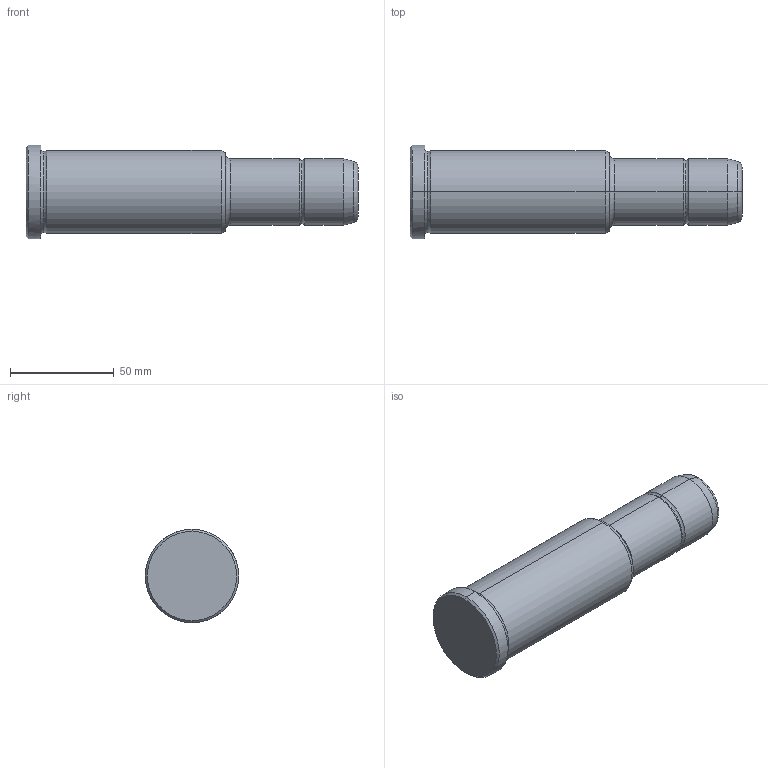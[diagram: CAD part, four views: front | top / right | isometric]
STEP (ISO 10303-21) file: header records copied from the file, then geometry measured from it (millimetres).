
FILE_DESCRIPTION(('CATIA V5 STEP Exchange'),'2;1');
FILE_NAME('C:\Users\Utente\Desktop\IO LAVORO\3D X SITO CF\X SITO\PLASTICA\351\351-32X96X160.stp','2021-09-10T12:22:21+00:00',('none'),('none'),'CATIA Version 5 Release 20 GA (IN-10)','CATIA V5 STEP AP203','none');
FILE_SCHEMA(('CONFIG_CONTROL_DESIGN'));
Length unit declared in the file: millimetre
Products named in the file (1): 351-32X96X160
Bounding box: 160 x 45 x 45 mm (x, y, z)
Volume: 173382.2 mm3; surface area: 21305.4 mm2
Topology: 1 solids, 1 shells, 30 faces, 86 edges, 60 vertices
Faces by surface type: torus 12, cylinder 8, cone 6, plane 4
Entity records: 1112 total; most frequent: CARTESIAN_POINT 289, ORIENTED_EDGE 172, DIRECTION 138, AXIS2_PLACEMENT_3D 95, EDGE_CURVE 86, CIRCLE 64, VERTEX_POINT 60, EDGE_LOOP 32
